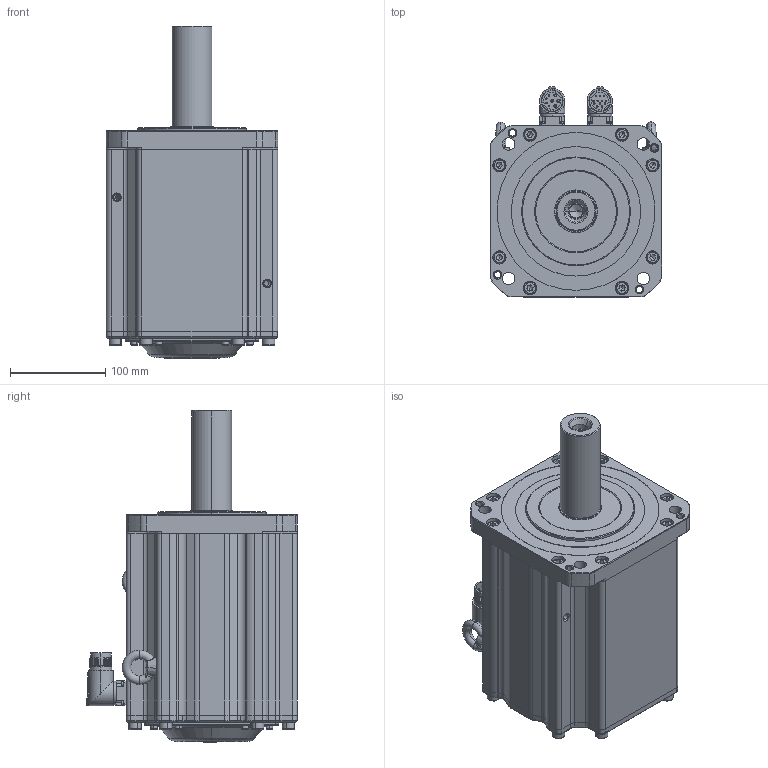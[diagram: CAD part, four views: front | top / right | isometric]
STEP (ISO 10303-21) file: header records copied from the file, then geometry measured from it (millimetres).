
FILE_DESCRIPTION (( 'STEP AP203' ), '1' );
FILE_NAME ('MC20-180-3M15-N552-0¡õPL-NNNN.STEP', '2025-07-30T13:21:33', ( '' ), ( '' ), 'SwSTEP 2.0', 'SolidWorks 2014', '' );
FILE_SCHEMA (( 'CONFIG_CONTROL_DESIGN' ));
Length unit declared in the file: millimetre
Products named in the file (1): MC20-180-3M15-N552-0¡õPL-NNNN
Bounding box: 180 x 221.35 x 348.95 mm (x, y, z)
Volume: 8436223.3 mm3; surface area: 519458.6 mm2
Topology: 40 solids, 42 shells, 2194 faces, 5079 edges, 3029 vertices
Faces by surface type: plane 879, cylinder 578, cone 482, torus 208, bspline 47
Entity records: 64156 total; most frequent: CARTESIAN_POINT 14091, DIRECTION 10995, ORIENTED_EDGE 9938, EDGE_CURVE 4969, AXIS2_PLACEMENT_3D 4263, VERTEX_POINT 3029, VECTOR 2469, LINE 2469
